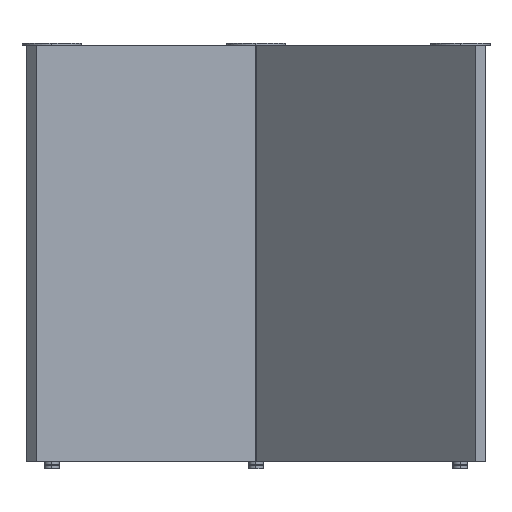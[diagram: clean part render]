
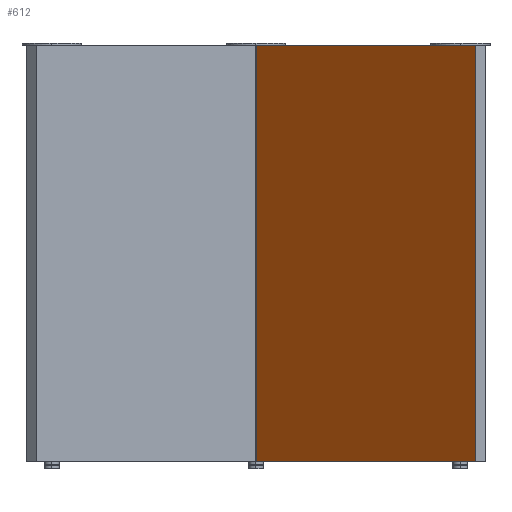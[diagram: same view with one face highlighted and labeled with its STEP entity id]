
A CAD part, left-side view. The second image highlights one B-rep face of the part: STEP entity #612.
In plain terms, the highlighted planar face has unit normal (-0.707, 0.707, 0).
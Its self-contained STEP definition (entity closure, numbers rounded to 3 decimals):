
#612=ADVANCED_FACE('',(#1060),#6232,.T.);
#1060=FACE_OUTER_BOUND('',#1556,.T.);
#1556=EDGE_LOOP('',(#2698,#2699,#2700,#2701));
#2698=ORIENTED_EDGE('',*,*,#3995,.T.);
#2699=ORIENTED_EDGE('',*,*,#3996,.T.);
#2700=ORIENTED_EDGE('',*,*,#3997,.F.);
#2701=ORIENTED_EDGE('',*,*,#3993,.F.);
#3993=EDGE_CURVE('',#5574,#5575,#5160,.T.);
#3995=EDGE_CURVE('',#5574,#5576,#5162,.T.);
#3996=EDGE_CURVE('',#5576,#5577,#5163,.T.);
#3997=EDGE_CURVE('',#5575,#5577,#5164,.T.);
#5160=B_SPLINE_CURVE_WITH_KNOTS('',1,(#10244,#10245),.UNSPECIFIED.,.F.,
 .F.,(2,2),(0.,700.),.UNSPECIFIED.);
#5162=B_SPLINE_CURVE_WITH_KNOTS('',1,(#10248,#10249),.UNSPECIFIED.,.F.,
 .F.,(2,2),(582.268,1079.18),.UNSPECIFIED.);
#5163=B_SPLINE_CURVE_WITH_KNOTS('',1,(#10250,#10251),.UNSPECIFIED.,.F.,
 .F.,(2,2),(0.,700.),.UNSPECIFIED.);
#5164=B_SPLINE_CURVE_WITH_KNOTS('',1,(#10252,#10253),.UNSPECIFIED.,.F.,
 .F.,(2,2),(582.268,1079.18),.UNSPECIFIED.);
#5574=VERTEX_POINT('',#10218);
#5575=VERTEX_POINT('',#10219);
#5576=VERTEX_POINT('',#10220);
#5577=VERTEX_POINT('',#10221);
#6232=PLANE('',#6384);
#6384=AXIS2_PLACEMENT_3D('',#10147,#6521,$);
#6521=DIRECTION('',(-0.707,0.707,0.));
#10147=CARTESIAN_POINT('',(610.994,419.278,205.975));
#10218=CARTESIAN_POINT('',(610.994,419.278,205.975));
#10219=CARTESIAN_POINT('',(610.994,419.278,905.975));
#10220=CARTESIAN_POINT('',(241.946,50.231,205.975));
#10221=CARTESIAN_POINT('',(241.946,50.231,905.975));
#10244=CARTESIAN_POINT('',(610.994,419.278,205.975));
#10245=CARTESIAN_POINT('',(610.994,419.278,905.975));
#10248=CARTESIAN_POINT('',(610.994,419.278,205.975));
#10249=CARTESIAN_POINT('',(241.946,50.231,205.975));
#10250=CARTESIAN_POINT('',(241.946,50.231,205.975));
#10251=CARTESIAN_POINT('',(241.946,50.231,905.975));
#10252=CARTESIAN_POINT('',(610.994,419.278,905.975));
#10253=CARTESIAN_POINT('',(241.946,50.231,905.975));
